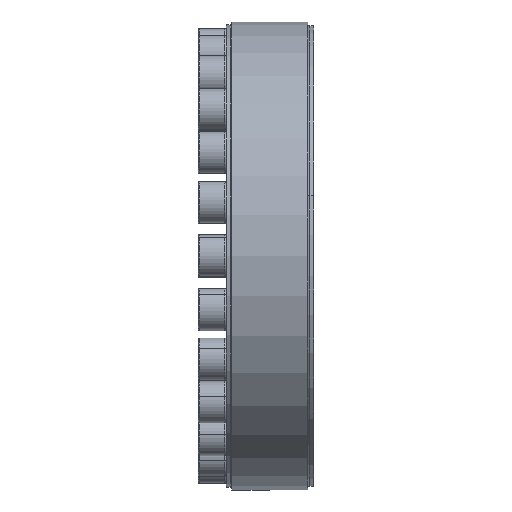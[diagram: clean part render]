
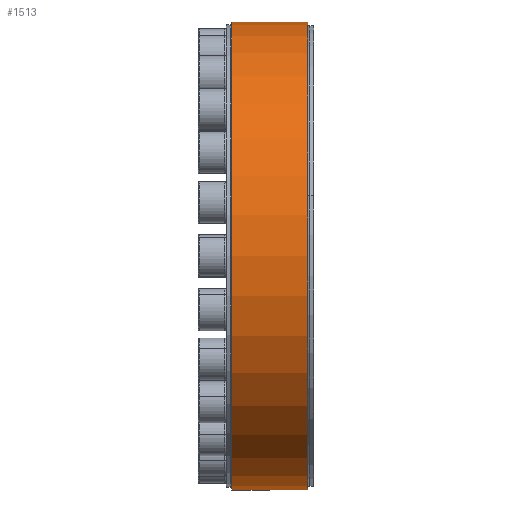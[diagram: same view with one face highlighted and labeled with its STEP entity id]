
A CAD part, top view. The second image highlights one B-rep face of the part: STEP entity #1513.
In plain terms, the highlighted cylindrical face has radius 117.49 mm (diameter 234.981 mm), a partial arc.
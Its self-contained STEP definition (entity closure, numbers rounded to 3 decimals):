
#37 = CARTESIAN_POINT ( 'NONE',  ( 19., 0., 0. ) ) ;
#99 = DIRECTION ( 'NONE',  ( 1., 0., 0. ) ) ;
#339 = VERTEX_POINT ( 'NONE', #8109 ) ;
#423 = CARTESIAN_POINT ( 'NONE',  ( 19., 117.49, 0. ) ) ;
#1045 = VERTEX_POINT ( 'NONE', #2177 ) ;
#1090 = AXIS2_PLACEMENT_3D ( 'NONE', #5336, #18085, #4187 ) ;
#1513 = ADVANCED_FACE ( 'NONE', ( #16338 ), #15490, .T. ) ;
#1528 = CARTESIAN_POINT ( 'NONE',  ( -19., 117.49, 0. ) ) ;
#1708 = VERTEX_POINT ( 'NONE', #423 ) ;
#2177 = CARTESIAN_POINT ( 'NONE',  ( 19., -117.49, 0. ) ) ;
#2271 = CIRCLE ( 'NONE', #15972, 117.49 ) ;
#2397 = LINE ( 'NONE', #5979, #6775 ) ;
#3211 = EDGE_CURVE ( 'NONE', #1708, #1045, #2271, .T. ) ;
#3467 = ORIENTED_EDGE ( 'NONE', *, *, #3211, .F. ) ;
#4187 = DIRECTION ( 'NONE',  ( 0., 1., 0. ) ) ;
#5250 = EDGE_CURVE ( 'NONE', #339, #1045, #5927, .T. ) ;
#5336 = CARTESIAN_POINT ( 'NONE',  ( 22., 0., 0. ) ) ;
#5927 = LINE ( 'NONE', #13500, #14060 ) ;
#5979 = CARTESIAN_POINT ( 'NONE',  ( 22., 117.49, 0. ) ) ;
#6280 = ORIENTED_EDGE ( 'NONE', *, *, #12629, .F. ) ;
#6444 = CARTESIAN_POINT ( 'NONE',  ( -19., 0., 0. ) ) ;
#6775 = VECTOR ( 'NONE', #11626, 1000. ) ;
#6914 = DIRECTION ( 'NONE',  ( 0., 1., 0. ) ) ;
#8109 = CARTESIAN_POINT ( 'NONE',  ( -19., -117.49, 0. ) ) ;
#10567 = DIRECTION ( 'NONE',  ( 1., 0., 0. ) ) ;
#11626 = DIRECTION ( 'NONE',  ( 1., 0., 0. ) ) ;
#12513 = ORIENTED_EDGE ( 'NONE', *, *, #13496, .T. ) ;
#12629 = EDGE_CURVE ( 'NONE', #16101, #1708, #2397, .T. ) ;
#13496 = EDGE_CURVE ( 'NONE', #16101, #339, #13764, .T. ) ;
#13500 = CARTESIAN_POINT ( 'NONE',  ( 22., -117.49, 0. ) ) ;
#13614 = DIRECTION ( 'NONE',  ( 0., 1., 0. ) ) ;
#13622 = DIRECTION ( 'NONE',  ( 1., 0., 0. ) ) ;
#13764 = CIRCLE ( 'NONE', #17760, 117.49 ) ;
#14060 = VECTOR ( 'NONE', #13622, 1000. ) ;
#15262 = ORIENTED_EDGE ( 'NONE', *, *, #5250, .T. ) ;
#15490 = CYLINDRICAL_SURFACE ( 'NONE', #1090, 117.49 ) ;
#15972 = AXIS2_PLACEMENT_3D ( 'NONE', #37, #99, #6914 ) ;
#16101 = VERTEX_POINT ( 'NONE', #1528 ) ;
#16338 = FACE_OUTER_BOUND ( 'NONE', #18127, .T. ) ;
#17760 = AXIS2_PLACEMENT_3D ( 'NONE', #6444, #10567, #13614 ) ;
#18085 = DIRECTION ( 'NONE',  ( 1., 0., 0. ) ) ;
#18127 = EDGE_LOOP ( 'NONE', ( #12513, #15262, #3467, #6280 ) ) ;
